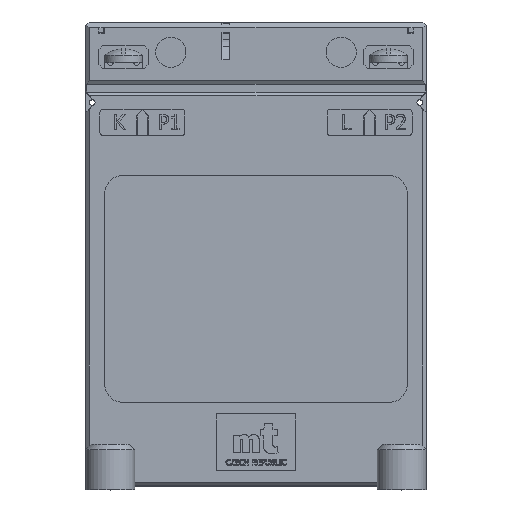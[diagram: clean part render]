
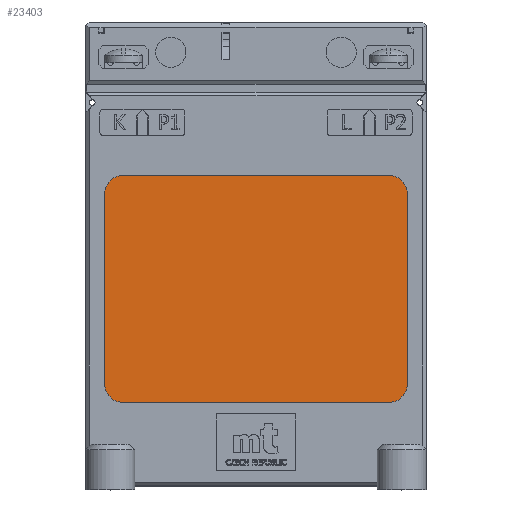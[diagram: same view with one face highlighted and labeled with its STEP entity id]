
A CAD part, top view. The second image highlights one B-rep face of the part: STEP entity #23403.
In plain terms, the highlighted planar face has unit normal (0, 0, 1) as drawn and (0, 0, -1) by its records, which use the part's own axes.
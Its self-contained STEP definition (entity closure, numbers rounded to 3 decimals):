
#1512=CIRCLE('',#24843,5.);
#1513=CIRCLE('',#24846,5.);
#1514=CIRCLE('',#24849,5.);
#1515=CIRCLE('',#24852,5.);
#2145=FACE_OUTER_BOUND('',#3454,.T.);
#3454=EDGE_LOOP('',(#17626,#17627,#17628,#17629,#17630,#17631,#17632,#17633));
#5324=LINE('',#34788,#7877);
#5327=LINE('',#34796,#7880);
#5330=LINE('',#34804,#7883);
#5332=LINE('',#34810,#7885);
#7877=VECTOR('',#27340,10.);
#7880=VECTOR('',#27349,10.);
#7883=VECTOR('',#27358,10.);
#7885=VECTOR('',#27366,10.);
#10327=VERTEX_POINT('',#34780);
#10328=VERTEX_POINT('',#34782);
#10329=VERTEX_POINT('',#34786);
#10330=VERTEX_POINT('',#34790);
#10331=VERTEX_POINT('',#34794);
#10332=VERTEX_POINT('',#34798);
#10333=VERTEX_POINT('',#34802);
#10334=VERTEX_POINT('',#34806);
#13007=EDGE_CURVE('',#10327,#10328,#1512,.T.);
#13010=EDGE_CURVE('',#10329,#10327,#5324,.T.);
#13012=EDGE_CURVE('',#10330,#10329,#1513,.T.);
#13014=EDGE_CURVE('',#10331,#10330,#5327,.T.);
#13016=EDGE_CURVE('',#10332,#10331,#1514,.T.);
#13018=EDGE_CURVE('',#10333,#10332,#5330,.T.);
#13020=EDGE_CURVE('',#10334,#10333,#1515,.T.);
#13021=EDGE_CURVE('',#10328,#10334,#5332,.T.);
#17626=ORIENTED_EDGE('',*,*,#13021,.F.);
#17627=ORIENTED_EDGE('',*,*,#13007,.F.);
#17628=ORIENTED_EDGE('',*,*,#13010,.F.);
#17629=ORIENTED_EDGE('',*,*,#13012,.F.);
#17630=ORIENTED_EDGE('',*,*,#13014,.F.);
#17631=ORIENTED_EDGE('',*,*,#13016,.F.);
#17632=ORIENTED_EDGE('',*,*,#13018,.F.);
#17633=ORIENTED_EDGE('',*,*,#13020,.F.);
#22432=PLANE('',#24854);
#23403=ADVANCED_FACE('',(#2145),#22432,.T.);
#24843=AXIS2_PLACEMENT_3D('',#34783,#27334,#27335);
#24846=AXIS2_PLACEMENT_3D('',#34792,#27344,#27345);
#24849=AXIS2_PLACEMENT_3D('',#34800,#27353,#27354);
#24852=AXIS2_PLACEMENT_3D('',#34808,#27362,#27363);
#24854=AXIS2_PLACEMENT_3D('',#34811,#27367,#27368);
#27334=DIRECTION('center_axis',(0.,0.,1.));
#27335=DIRECTION('ref_axis',(0.,-1.,0.));
#27340=DIRECTION('',(0.,-1.,0.));
#27344=DIRECTION('center_axis',(0.,0.,1.));
#27345=DIRECTION('ref_axis',(-1.,0.,0.));
#27349=DIRECTION('',(-1.,0.,0.));
#27353=DIRECTION('center_axis',(0.,0.,1.));
#27354=DIRECTION('ref_axis',(0.,1.,0.));
#27358=DIRECTION('',(0.,1.,0.));
#27362=DIRECTION('center_axis',(0.,0.,1.));
#27363=DIRECTION('ref_axis',(1.,0.,0.));
#27366=DIRECTION('',(1.,0.,0.));
#27367=DIRECTION('center_axis',(0.,0.,-1.));
#27368=DIRECTION('ref_axis',(-1.,0.,0.));
#34780=CARTESIAN_POINT('',(-40.,27.,0.1));
#34782=CARTESIAN_POINT('',(-35.,22.,0.1));
#34783=CARTESIAN_POINT('Origin',(-35.,27.,0.1));
#34786=CARTESIAN_POINT('',(-40.,77.,0.1));
#34788=CARTESIAN_POINT('',(-40.,27.,0.1));
#34790=CARTESIAN_POINT('',(-35.,82.,0.1));
#34792=CARTESIAN_POINT('Origin',(-35.,77.,0.1));
#34794=CARTESIAN_POINT('',(35.,82.,0.1));
#34796=CARTESIAN_POINT('',(-35.,82.,0.1));
#34798=CARTESIAN_POINT('',(40.,77.,0.1));
#34800=CARTESIAN_POINT('Origin',(35.,77.,0.1));
#34802=CARTESIAN_POINT('',(40.,27.,0.1));
#34804=CARTESIAN_POINT('',(40.,77.,0.1));
#34806=CARTESIAN_POINT('',(35.,22.,0.1));
#34808=CARTESIAN_POINT('Origin',(35.,27.,0.1));
#34810=CARTESIAN_POINT('',(35.,22.,0.1));
#34811=CARTESIAN_POINT('Origin',(0.,52.,0.1));
